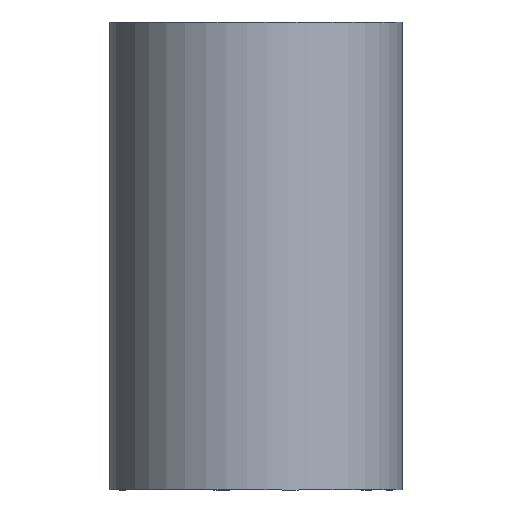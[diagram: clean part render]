
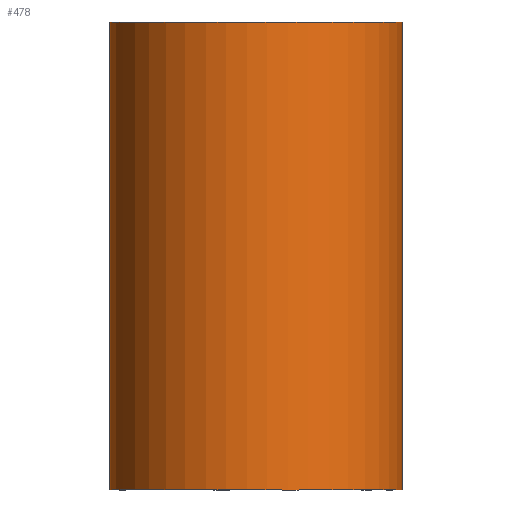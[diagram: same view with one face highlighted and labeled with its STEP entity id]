
A CAD part, left-side view. The second image highlights one B-rep face of the part: STEP entity #478.
In plain terms, the highlighted free-form (B-spline) face has degree [2, 1] with [5, 2] control points.
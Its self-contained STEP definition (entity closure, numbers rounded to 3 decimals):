
#478=ADVANCED_FACE('',(#632),#3828,.T.);
#632=FACE_OUTER_BOUND('',#789,.T.);
#789=EDGE_LOOP('',(#1023,#1024,#1025,#1026));
#1023=ORIENTED_EDGE('',*,*,#1731,.F.);
#1024=ORIENTED_EDGE('',*,*,#1735,.F.);
#1025=ORIENTED_EDGE('',*,*,#1736,.T.);
#1026=ORIENTED_EDGE('',*,*,#1733,.F.);
#1731=EDGE_CURVE('',#3107,#3108,#2793,.T.);
#1733=EDGE_CURVE('',#3108,#3109,#2415,.T.);
#1735=EDGE_CURVE('',#3110,#3107,#2416,.T.);
#1736=EDGE_CURVE('',#3110,#3109,#2796,.T.);
#2415=B_SPLINE_CURVE_WITH_KNOTS('',1,(#4601,#4602),.UNSPECIFIED.,.F.,.F.,
(2,2),(0.,160.),.UNSPECIFIED.);
#2416=B_SPLINE_CURVE_WITH_KNOTS('',1,(#4608,#4609),.UNSPECIFIED.,.F.,.F.,
(2,2),(-160.,0.),.UNSPECIFIED.);
#2793=(
BOUNDED_CURVE()
B_SPLINE_CURVE(2,(#4591,#4592,#4593,#4594,#4595),.UNSPECIFIED.,.F.,.F.)
B_SPLINE_CURVE_WITH_KNOTS((3,2,3),(0.,78.54,157.08),
 .UNSPECIFIED.)
CURVE()
GEOMETRIC_REPRESENTATION_ITEM()
RATIONAL_B_SPLINE_CURVE((1.,0.707,1.,0.707,1.))
REPRESENTATION_ITEM('')
);
#2796=(
BOUNDED_CURVE()
B_SPLINE_CURVE(2,(#4610,#4611,#4612,#4613,#4614),.UNSPECIFIED.,.F.,.F.)
B_SPLINE_CURVE_WITH_KNOTS((3,2,3),(0.,78.54,157.08),
 .UNSPECIFIED.)
CURVE()
GEOMETRIC_REPRESENTATION_ITEM()
RATIONAL_B_SPLINE_CURVE((1.,0.707,1.,0.707,1.))
REPRESENTATION_ITEM('')
);
#3107=VERTEX_POINT('',#4569);
#3108=VERTEX_POINT('',#4570);
#3109=VERTEX_POINT('',#4571);
#3110=VERTEX_POINT('',#4572);
#3828=(
BOUNDED_SURFACE()
B_SPLINE_SURFACE(2,1,((#4464,#4465),(#4466,#4467),(#4468,#4469),(#4470,
#4471),(#4472,#4473)),.UNSPECIFIED.,.F.,.F.,.F.)
B_SPLINE_SURFACE_WITH_KNOTS((3,2,3),(2,2),(-157.08,-78.54,
0.),(0.,160.),.UNSPECIFIED.)
GEOMETRIC_REPRESENTATION_ITEM()
RATIONAL_B_SPLINE_SURFACE(((1.,1.),(0.707,0.707),
(1.,1.),(0.707,0.707),(1.,1.)))
REPRESENTATION_ITEM('')
SURFACE()
);
#4464=CARTESIAN_POINT('',(0.,30.,80.));
#4465=CARTESIAN_POINT('',(0.,30.,-80.));
#4466=CARTESIAN_POINT('',(-50.,30.,80.));
#4467=CARTESIAN_POINT('',(-50.,30.,-80.));
#4468=CARTESIAN_POINT('',(-50.,80.,80.));
#4469=CARTESIAN_POINT('',(-50.,80.,-80.));
#4470=CARTESIAN_POINT('',(-50.,130.,80.));
#4471=CARTESIAN_POINT('',(-50.,130.,-80.));
#4472=CARTESIAN_POINT('',(0.,130.,80.));
#4473=CARTESIAN_POINT('',(0.,130.,-80.));
#4569=CARTESIAN_POINT('',(0.,130.,80.));
#4570=CARTESIAN_POINT('',(0.,30.,80.));
#4571=CARTESIAN_POINT('',(0.,30.,-80.));
#4572=CARTESIAN_POINT('',(0.,130.,-80.));
#4591=CARTESIAN_POINT('',(0.,130.,80.));
#4592=CARTESIAN_POINT('',(-50.,130.,80.));
#4593=CARTESIAN_POINT('',(-50.,80.,80.));
#4594=CARTESIAN_POINT('',(-50.,30.,80.));
#4595=CARTESIAN_POINT('',(0.,30.,80.));
#4601=CARTESIAN_POINT('',(0.,30.,80.));
#4602=CARTESIAN_POINT('',(0.,30.,-80.));
#4608=CARTESIAN_POINT('',(0.,130.,-80.));
#4609=CARTESIAN_POINT('',(0.,130.,80.));
#4610=CARTESIAN_POINT('',(0.,130.,-80.));
#4611=CARTESIAN_POINT('',(-50.,130.,-80.));
#4612=CARTESIAN_POINT('',(-50.,80.,-80.));
#4613=CARTESIAN_POINT('',(-50.,30.,-80.));
#4614=CARTESIAN_POINT('',(0.,30.,-80.));
